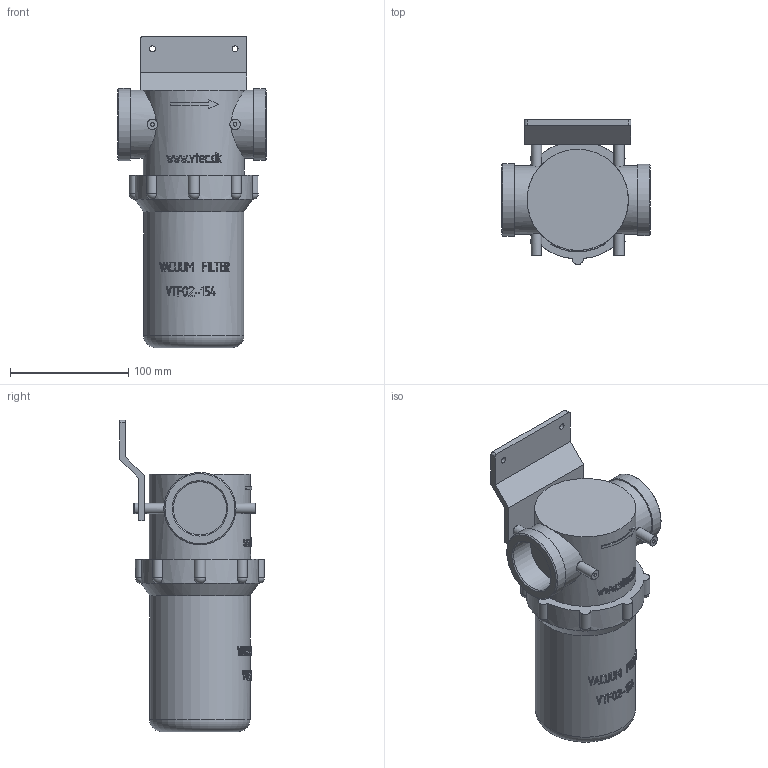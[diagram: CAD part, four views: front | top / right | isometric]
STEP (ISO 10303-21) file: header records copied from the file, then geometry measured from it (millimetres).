
FILE_DESCRIPTION( ( 'STEP AP214' ), '1' );
FILE_NAME( 'C:/撲啗紫賊-02/3D-Step File/Accessories/Vacuum Filter/VTF02-154.stp', '2006-04-24T05:50:32', ( ' ' ), ( ' ' ), 'XStep 1.0', ' ', ' ' );
FILE_SCHEMA( ( 'CONFIG_CONTROL_DESIGN) ( )' ) );
Length unit declared in the file: metre
Products named in the file (1): 1
Bounding box: 126 x 122.58 x 263.6 mm (x, y, z)
Volume: 1402233.3 mm3; surface area: 111616.4 mm2
Topology: 1 solids, 1 shells, 413 faces, 1078 edges, 709 vertices
Faces by surface type: plane 217, bspline 97, cylinder 82, sphere 8, cone 6, torus 3
Full cylindrical faces by diameter (mm): 3.2 x2, 5 x2, 8.8 x6, 45 x2, 57.8 x2, 60.4 x1, 61.2 x1, 85 x1, 85.7 x1
Entity records: 25180 total; most frequent: CARTESIAN_POINT 12429, ORIENTED_EDGE 2056, DIRECTION 1700, EDGE_CURVE 1028, VERTEX_POINT 696, AXIS2_PLACEMENT_3D 603, EDGE_LOOP 498, LINE 494
